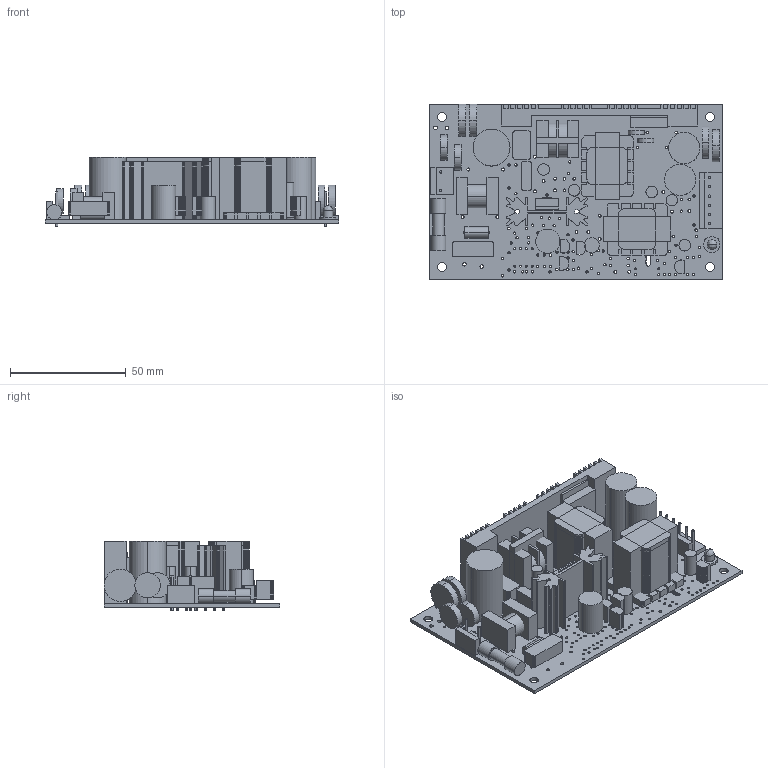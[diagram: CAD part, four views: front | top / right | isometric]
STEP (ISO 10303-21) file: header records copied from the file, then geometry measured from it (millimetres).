
FILE_DESCRIPTION((''),'2;1');
FILE_NAME('PSD-45A-R1_ASM','2020-07-09T13:19:59',('shalinice'),(''),'CREO PARAMETRIC BY PTC INC, 2016390','CREO PARAMETRIC BY PTC INC, 2016390','');
FILE_SCHEMA(('AUTOMOTIVE_DESIGN { 1 0 10303 214 1 1 1 1 }'));
Products named in the file (96): BOARD; CYLINDER-34276; 1086354784_ASM; EXTRUDED-34503; 1042583072_ASM; EXTRUDED-34875; 1042582920_ASM; EXTRUDED-35247; 1042582768_ASM; EXTRUDED-35619; 1042582616_ASM; EXTRUDED-35991; 1042581704_ASM; EXTRUDED-37923; 1042580032_ASM; CYLINDER-39865; 1086355648_ASM; CYLINDER-40057; 1086354496_ASM; EXTRUDED-40249; 1042581552_ASM; EXTRUDED-40621; 1042581400_ASM; EXTRUDED-41071; 1042580488_ASM; EXTRUDED-41443; 1042580336_ASM; EXTRUDED-41815; 1042579728_ASM; EXTRUDED-42187; 1042580184_ASM; CYLINDER-42559; 1086355072_ASM; CYLINDER-42751; 1086354208_ASM; EXTRUDED-42943; 1042583680_ASM; EXTRUDED-44563; 1042575928_ASM; CYLINDER-44935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
Assembly tree (113 placements, depth 5):
  PSD-45A-R1_ASM
    PCB_ASM
      BOARD
      FREE-MODELS_ASM
        1086354784_ASM  x8
          CYLINDER-34276
        1042583072_ASM
          EXTRUDED-34503
        1042582920_ASM
          EXTRUDED-34875
        1042582768_ASM
          EXTRUDED-35247
        1042582616_ASM
          EXTRUDED-35619
        1042581704_ASM
          EXTRUDED-35991
        1042580032_ASM  x3
          EXTRUDED-37923
        1086355648_ASM
          CYLINDER-39865
        1086354496_ASM
          CYLINDER-40057
        1042581552_ASM
          EXTRUDED-40249
        1042581400_ASM
          EXTRUDED-40621
        1042580488_ASM
          EXTRUDED-41071
        1042580336_ASM
          EXTRUDED-41443
        1042579728_ASM
          EXTRUDED-41815
        1042580184_ASM
          EXTRUDED-42187
        1086355072_ASM
          CYLINDER-42559
        1086354208_ASM
          CYLINDER-42751
        1042583680_ASM
          EXTRUDED-42943
        1042575928_ASM
          EXTRUDED-44563
        1086353632_ASM
          CYLINDER-44935
        1042577448_ASM
          EXTRUDED-45127
        1042577144_ASM
          EXTRUDED-47995
        500705760_ASM  x4
          CYLINDER-50863
        503992064_ASM
          CYLINDER-51060
        503985528_ASM
          CYLINDER-51252
        503984616_ASM
          CYLINDER-51444
        1086354352_ASM  x4
          CYLINDER-51636
        1048515984_ASM  x2
          CYLINDER-51843
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Bounding box: 127 x 76 x 30 mm (x, y, z)
Volume: 98302.2 mm3; surface area: 71545.6 mm2
Topology: 65 solids, 65 shells, 1639 faces, 4525 edges, 3016 vertices
Faces by surface type: plane 1101, cylinder 536, bspline 2
Entity records: 66547 total; most frequent: CARTESIAN_POINT 9295, DIRECTION 8981, ORIENTED_EDGE 8570, EDGE_CURVE 4285, PRESENTATION_STYLE_ASSIGNMENT 3595, STYLED_ITEM 3595, CURVE_STYLE 3553, VECTOR 3273
